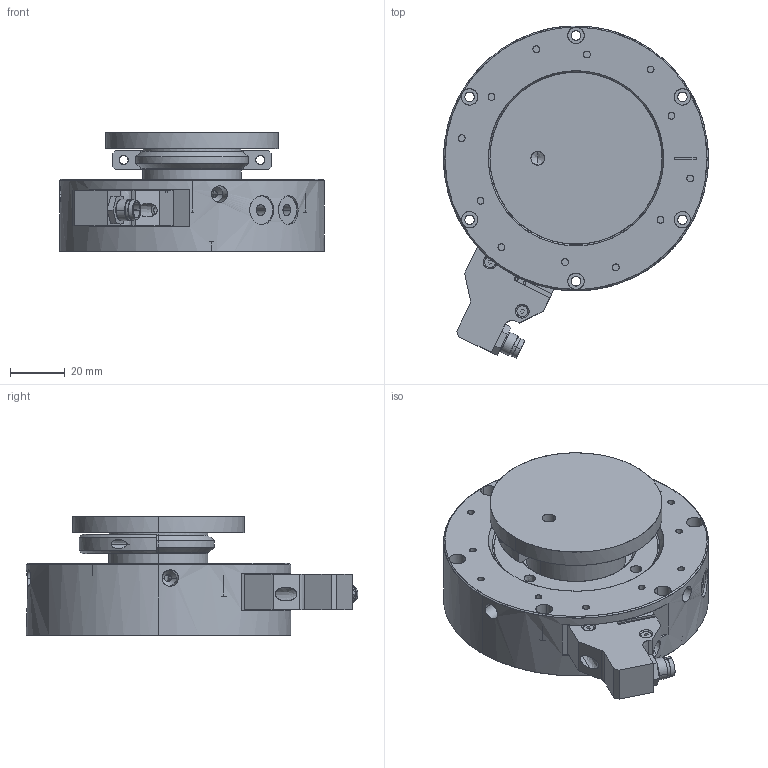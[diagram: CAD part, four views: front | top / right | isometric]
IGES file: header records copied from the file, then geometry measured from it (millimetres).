
Start section: Comment
Global section: file name: 99-0011A.igs; native system:  By Spatial Corp.; preprocessor: XPlus PS/IGES 3.0; author: Author; organization: Title; date: 20040210.100914; units: inch
Bounding box: 97 x 121.56 x 43.5 mm (x, y, z)
Surface area: 62022.2 mm2 (no closed solid volume)
Topology: 0 solids, 0 shells, 498 faces, 2294 edges, 2266 vertices
Faces by surface type: bspline 498
